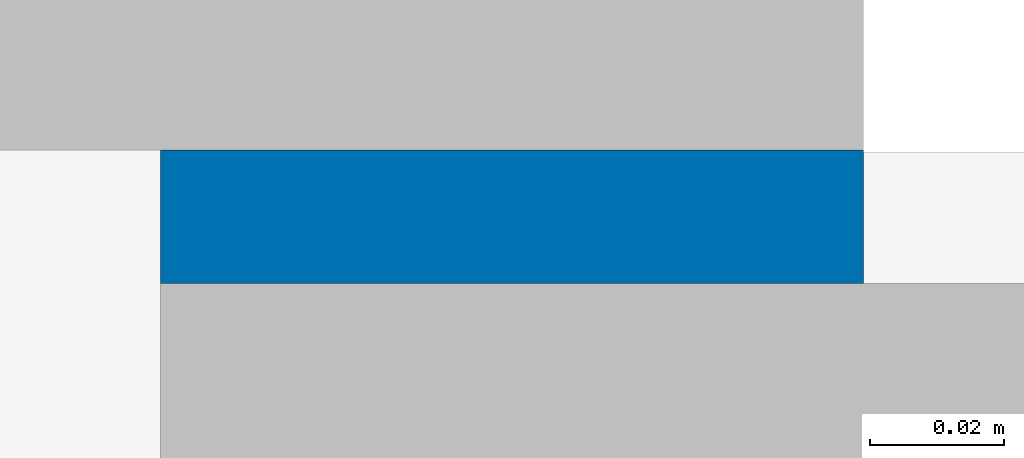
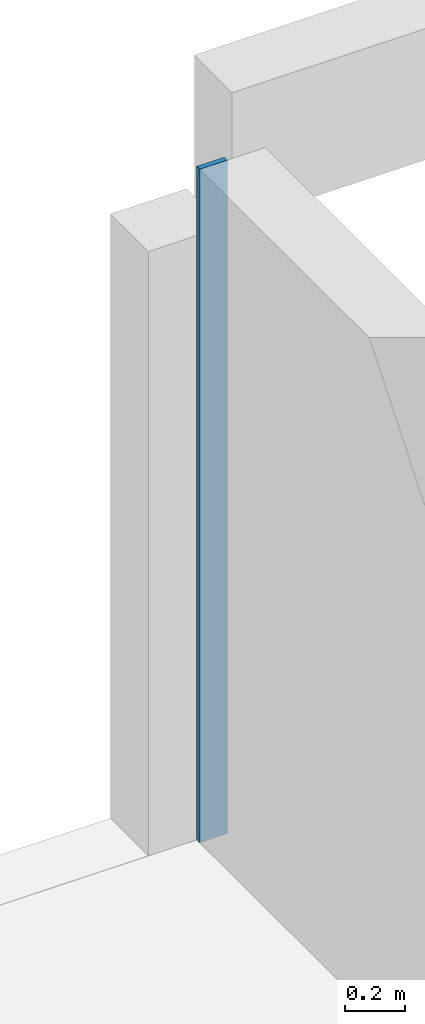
# One storey, part 12 of 18: 1 wall.
"""IFC2X3 building model written with IfcOpenShell, lengths in millimetres."""

from ifc_helpers import new_model, entity, si_unit, converted_unit, derived_unit, direction, frame, frame_2d, origin, place, context, subcontext, project, spatial, rectangle, extrude, material, layer, layer_set, layer_usage, type_object, element, save


model = new_model("IFC2X3")

# Units and contexts
model_context = context("Model", 3, precision=0.01, world=origin(), true_north=direction((6.12303176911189e-17, 1.0)))
body_context = subcontext(model_context, "Body", "Model", "MODEL_VIEW")
ifc_project = project(units=[si_unit("LENGTHUNIT", "METRE", prefix="MILLI"), si_unit("AREAUNIT", "SQUARE_METRE"), si_unit("VOLUMEUNIT", "CUBIC_METRE"), converted_unit("PLANEANGLEUNIT", "DEGREE", entity("IfcRatioMeasure", 0.0174532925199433), si_unit("PLANEANGLEUNIT", "RADIAN"), dimensions=[0, 0, 0, 0, 0, 0, 0]), si_unit("MASSUNIT", "GRAM", prefix="KILO"), derived_unit("MASSDENSITYUNIT", [(si_unit("MASSUNIT", "GRAM", prefix="KILO"), 1), (si_unit("LENGTHUNIT", "METRE"), -3)]), si_unit("TIMEUNIT", "SECOND"), si_unit("FREQUENCYUNIT", "HERTZ"), si_unit("THERMODYNAMICTEMPERATUREUNIT", "DEGREE_CELSIUS"), derived_unit("THERMALTRANSMITTANCEUNIT", [(si_unit("MASSUNIT", "GRAM", prefix="KILO"), 1), (si_unit("THERMODYNAMICTEMPERATUREUNIT", "KELVIN"), -1), (si_unit("TIMEUNIT", "SECOND"), -3)]), derived_unit("VOLUMETRICFLOWRATEUNIT", [(si_unit("LENGTHUNIT", "METRE"), 3), (si_unit("TIMEUNIT", "SECOND"), -1)]), si_unit("ELECTRICCURRENTUNIT", "AMPERE"), si_unit("ELECTRICVOLTAGEUNIT", "VOLT"), si_unit("POWERUNIT", "WATT"), si_unit("FORCEUNIT", "NEWTON", prefix="KILO"), si_unit("ILLUMINANCEUNIT", "LUX"), si_unit("LUMINOUSFLUXUNIT", "LUMEN"), si_unit("LUMINOUSINTENSITYUNIT", "CANDELA"), derived_unit("USERDEFINED", [(si_unit("MASSUNIT", "GRAM", prefix="KILO"), -1), (si_unit("LENGTHUNIT", "METRE"), -2), (si_unit("TIMEUNIT", "SECOND"), 3), (si_unit("LUMINOUSFLUXUNIT", "LUMEN"), 1)]), derived_unit("LINEARVELOCITYUNIT", [(si_unit("LENGTHUNIT", "METRE"), 1), (si_unit("TIMEUNIT", "SECOND"), -1)]), si_unit("PRESSUREUNIT", "PASCAL"), derived_unit("USERDEFINED", [(si_unit("LENGTHUNIT", "METRE"), -2), (si_unit("MASSUNIT", "GRAM", prefix="KILO"), 1), (si_unit("TIMEUNIT", "SECOND"), -2)])], contexts=[model_context])

# Site, building, storey
site_placement = place(None, origin())
site = spatial("IfcSite", under=ifc_project, at=site_placement, Name="Default", CompositionType="ELEMENT")
building_placement = place(site_placement, origin())
building = spatial("IfcBuilding", under=site, at=building_placement, Name="niet gebruiken", CompositionType="ELEMENT")
storey_placement = place(building_placement, frame((0.0, 0.0, 3690.0)))
storey = spatial("IfcBuildingStorey", under=building, at=storey_placement, Name="01 eerste verdieping", CompositionType="ELEMENT", Elevation=3690.00000000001)

# Wall
ifc_material = material(Name="NLRS_f2_beton ihwg")
ifc_layer = layer(ifc_material, 105.0)
ifc_layer_set = layer_set([ifc_layer], Name="Basic Wall:NLRS_22.21_WA_beton ihwg d=105_gen")
ifc_layer_usage = layer_usage(ifc_layer_set, "AXIS2", "NEGATIVE", 52.5)
wall_type = type_object("IfcWallType", Name="Basic Wall:NLRS_22.21_WA_beton ihwg d=105_gen", PredefinedType="STANDARD", material=ifc_layer_set)
wall_placement = place(storey_placement, frame((59327.4999999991, 52986.0, -90.0), z_axis=(0.0, 0.0, 1.0), x_axis=(0.0, 1.0, 0.0)))
element("IfcWallStandardCase", 1, at=wall_placement, inside=storey, type_object=wall_type, material=ifc_layer_usage, Name="Basic Wall:NLRS_22.21_WA_beton ihwg d=105_gen", ObjectType="Basic Wall:NLRS_22.21_WA_beton ihwg d=105_gen", context=body_context, shape_type="SweptSolid", body=[
    extrude(rectangle(XDim=20.0000000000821, YDim=104.999999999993, at=frame_2d((10.000000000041, 1.77635683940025e-14), x_axis=(-1.0, 0.0))), origin(), (0.0, 0.0, 1.0), 2720.00000000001),
])

save(model, "model.ifc")
